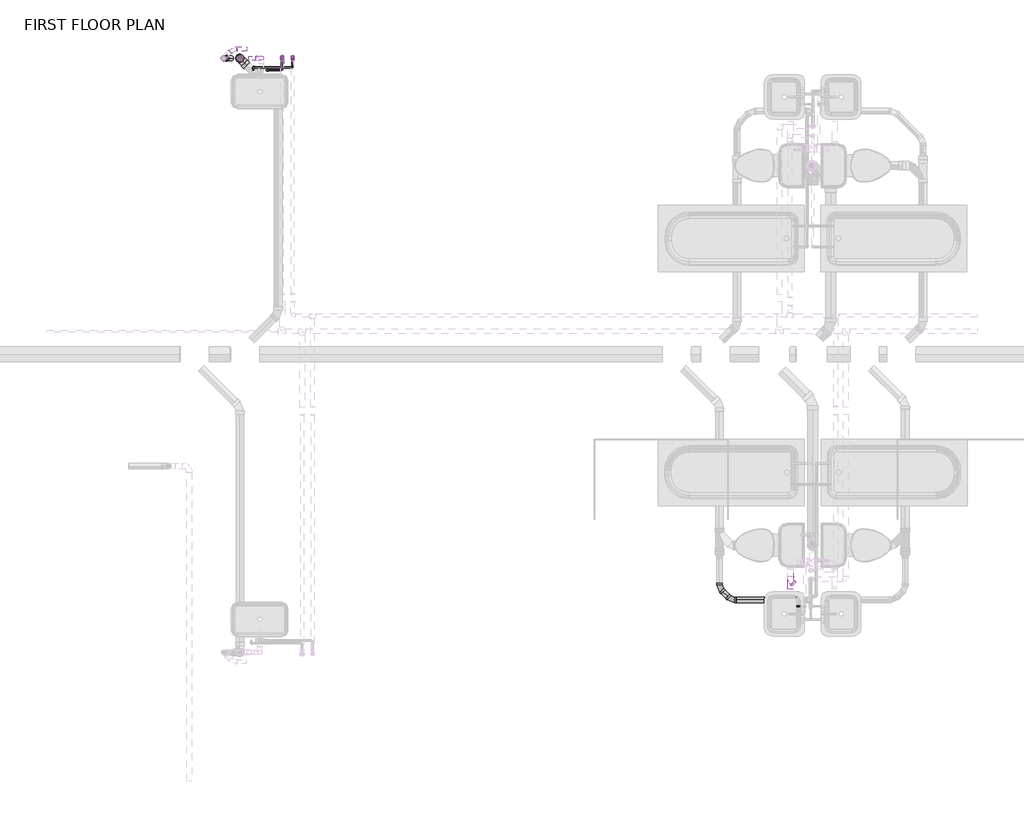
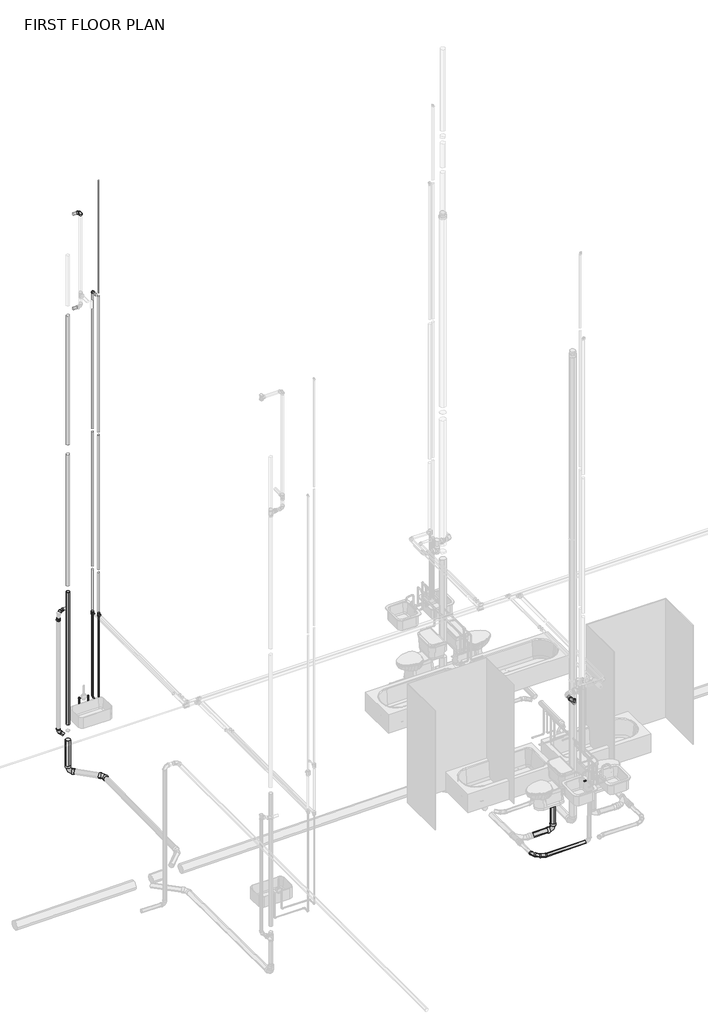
# One storey, part 4 of 29: 31 pipe segments, 26 pipe fittings.
"""IFC4 building model written with IfcOpenShell, lengths in millimetres."""

from ifc_helpers import new_model, si_unit, point, frame, frame_2d, origin, place, context, project, spatial, circle_curve, trimmed, segment, composite_curve, outline, extrude, transform, mapped, element, save
from components import bend_pvc_sch_40_dwv_standard_738aab8b, bend_pvc_sch_40_dwv_standard_9b1ab2e2, bend_pvc_sch_40_dwv_standard_e6a60135, bend_pvc_sch_40_dwv_standard_cc806abd, bend_pvc_sch_40_dwv_standard_9d8d5a04, bend_pvc_sch_40_dwv_standard_bec85717, bend_pvc_sch_40_dwv_standard_9832a8ad, bend_pvc_sch_40_dwv_standard_a6ae3568, bend_pvc_sch_40_dwv_standard_1fcfdb7d, pipe_elbow_copper_k_feaaf02c, pipe_elbow_copper_k_aad62f2d, pipe_elbow_copper_k_aee2f062, pipe_elbow_copper_k_4cfe590c, pipe_elbow_copper_k_69a8f9be, pipe_tee_copper_k_60c871d1, pipe_transition_copper_k_859ff352, pipe_transition_copper_k_3e141881, pipe_transition_copper_k_46d96269, pipe_transition_copper_k_a9268ca5, pipe_transition_copper_k_a0e390c6, reducer_pvc_sch_40_dwv_standard_230e9924

model = new_model("IFC4")

# Units and contexts
model_context = context("Model", 3, world=origin())
ifc_project = project(units=[si_unit("LENGTHUNIT", "METRE", prefix="MILLI")], contexts=[model_context])

# Site, building, storey
site = spatial("IfcSite", under=ifc_project)
building = spatial("IfcBuilding", under=site)
storey = spatial("IfcBuildingStorey", under=building, Name="FIRST FLOOR PLAN", Elevation=0.0)

# Pipe fittings
placement = place(None, origin())
bend_pvc_sch_40_dwv_standard_shape = bend_pvc_sch_40_dwv_standard_738aab8b(model_context)
element("IfcPipeFitting", 1, ObjectType="Bend - PVC - Sch 40 - DWV : Standard", at=placement, inside=storey, context=model_context, shape_type="MappedRepresentation", body=[
    mapped(bend_pvc_sch_40_dwv_standard_shape, transform((-4211.8802487, 8911.2513726, 10809.6112003), x_axis=(0.0, 0.0, 1.0), y_axis=(-0.9999889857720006, 0.004693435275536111, 0.0), z_axis=(-0.004693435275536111, -0.9999889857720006, 0.0))),
])
bend_pvc_sch_40_dwv_standard_2_shape = bend_pvc_sch_40_dwv_standard_9b1ab2e2(model_context)
element("IfcPipeFitting", 2, ObjectType="Bend - PVC - Sch 40 - DWV : Standard", at=placement, inside=storey, context=model_context, shape_type="MappedRepresentation", body=[
    mapped(bend_pvc_sch_40_dwv_standard_2_shape, transform((-4536.3609113, 9017.6936649, 2685.8310921), x_axis=(-0.9999457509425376, 0.0, 0.010416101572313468), y_axis=(4.542044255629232e-05, -0.9999904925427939, 0.004360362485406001), z_axis=(0.010416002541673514, 0.004360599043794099, 0.9999362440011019))),
])
bend_pvc_sch_40_dwv_standard_3_shape = bend_pvc_sch_40_dwv_standard_e6a60135(model_context)
element("IfcPipeFitting", 3, ObjectType="Bend - PVC - Sch 40 - DWV : Standard", at=placement, inside=storey, context=model_context, shape_type="MappedRepresentation", body=[
    mapped(bend_pvc_sch_40_dwv_standard_3_shape, transform((1731.7783832, 3317.5011917, -529.632564), x_axis=(0.0, -5.143823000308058e-07, -0.9999999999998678), y_axis=(-1.0, -5.358148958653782e-09, 0.0), z_axis=(-5.358148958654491e-09, 0.9999999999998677, -5.143823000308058e-07))),
])
bend_pvc_sch_40_dwv_standard_4_shape = bend_pvc_sch_40_dwv_standard_cc806abd(model_context)
element("IfcPipeFitting", 4, ObjectType="Bend - PVC - Sch 40 - DWV : Standard", at=placement, inside=storey, context=model_context, shape_type="MappedRepresentation", body=[
    mapped(bend_pvc_sch_40_dwv_standard_4_shape, transform((1184.5226668, 2692.6283846, -526.9518495), x_axis=(0.7070684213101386, -0.707068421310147, 0.01041610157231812), y_axis=(0.707068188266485, 0.7071320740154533, 0.004336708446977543), z_axis=(-0.010431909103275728, 0.004298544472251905, 0.99993634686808))),
])
bend_pvc_sch_40_dwv_standard_5_shape = bend_pvc_sch_40_dwv_standard_9d8d5a04(model_context)
element("IfcPipeFitting", 5, ObjectType="Bend - PVC - Sch 40 - DWV : Standard", at=placement, inside=storey, context=model_context, shape_type="MappedRepresentation", body=[
    mapped(bend_pvc_sch_40_dwv_standard_5_shape, transform((1048.8502354, 2828.300816, -528.9504932), x_axis=(0.0, -0.9999457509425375, 0.010416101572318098), y_axis=(0.9999906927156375, 4.493975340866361e-05, 0.004314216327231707), z_axis=(-0.004314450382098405, 0.010416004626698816, 0.9999364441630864))),
])
bend_pvc_sch_40_dwv_standard_6_shape = bend_pvc_sch_40_dwv_standard_bec85717(model_context)
element("IfcPipeFitting", 6, ObjectType="Bend - PVC - Sch 40 - DWV : Standard", at=placement, inside=storey, context=model_context, shape_type="MappedRepresentation", body=[
    mapped(bend_pvc_sch_40_dwv_standard_6_shape, transform((-4458.7136369, 8911.2236854, -567.4026344), x_axis=(0.0, 0.0, -1.0), y_axis=(0.7071180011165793, -0.707095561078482, 0.0), z_axis=(-0.707095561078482, -0.7071180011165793, 0.0))),
])
bend_pvc_sch_40_dwv_standard_7_shape = bend_pvc_sch_40_dwv_standard_9832a8ad(model_context)
element("IfcPipeFitting", 7, ObjectType="Bend - PVC - Sch 40 - DWV : Standard", at=placement, inside=storey, context=model_context, shape_type="MappedRepresentation", body=[
    mapped(bend_pvc_sch_40_dwv_standard_7_shape, transform((-4017.0165056, 8469.5510834, -570.9215311), x_axis=(0.0, 0.9999456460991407, 0.010426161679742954), y_axis=(-0.9999969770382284, 2.5636306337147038e-05, -0.0024587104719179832), z_axis=(-0.002458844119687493, -0.010426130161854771, 0.9999426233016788))),
])
bend_pvc_sch_40_dwv_standard_8_shape = bend_pvc_sch_40_dwv_standard_a6ae3568(model_context)
element("IfcPipeFitting", 8, ObjectType="Bend - PVC - Sch 40 - DWV : Standard", at=placement, inside=storey, context=model_context, shape_type="MappedRepresentation", body=[
    mapped(bend_pvc_sch_40_dwv_standard_8_shape, transform((-4642.7612611, 8912.119871, 306.196907), x_axis=(0.0, 0.0, -1.0), y_axis=(0.9999896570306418, -0.004548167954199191, 0.0), z_axis=(-0.004548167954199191, -0.9999896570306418, 0.0))),
])
bend_pvc_sch_40_dwv_standard_9_shape = bend_pvc_sch_40_dwv_standard_1fcfdb7d(model_context)
element("IfcPipeFitting", 9, ObjectType="Bend - PVC - Sch 40 - DWV : Standard", at=placement, inside=storey, context=model_context, shape_type="MappedRepresentation", body=[
    mapped(bend_pvc_sch_40_dwv_standard_9_shape, transform((1864.3084867, 2912.8506152, 2298.6947608), x_axis=(0.0, -0.9999999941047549, -0.00010858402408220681), y_axis=(0.999999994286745, -1.1607073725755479e-08, 0.00010689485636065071), z_axis=(-0.0001068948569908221, -0.00010858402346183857, 0.9999999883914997))),
])
pipe_elbow_copper_k_shape = pipe_elbow_copper_k_feaaf02c(model_context)
element("IfcPipeFitting", 10, ObjectType="Pipe Elbow : Copper- K", at=placement, inside=storey, context=model_context, shape_type="MappedRepresentation", body=[
    mapped(pipe_elbow_copper_k_shape, transform((-3851.0839703, 8927.8175381, 658.9178352), x_axis=(0.0, 1.0, 0.0), y_axis=(0.0, 0.0, 1.0), z_axis=(1.0, 0.0, 0.0))),
])
pipe_elbow_copper_k_2_shape = pipe_elbow_copper_k_aad62f2d(model_context)
element("IfcPipeFitting", 11, ObjectType="Pipe Elbow : Copper- K", at=placement, inside=storey, context=model_context, shape_type="MappedRepresentation", body=[
    mapped(pipe_elbow_copper_k_2_shape, transform((-3971.8165125, 8927.8175381, 770.7360969), x_axis=(0.0, 0.0, -1.0), y_axis=(0.0, -1.0, 0.0), z_axis=(-1.0, 0.0, 0.0))),
])
element("IfcPipeFitting", 12, ObjectType="Pipe Elbow : Copper- K", at=placement, inside=storey, context=model_context, shape_type="MappedRepresentation", body=[
    mapped(pipe_elbow_copper_k_2_shape, transform((-3971.8165125, 8774.1278432, 770.7360969), x_axis=(0.9999999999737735, 0.0, -7.242448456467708e-06), y_axis=(0.0, 1.0000000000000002, 0.0), z_axis=(7.242448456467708e-06, 0.0, 0.9999999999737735))),
])
element("IfcPipeFitting", 13, ObjectType="Pipe Elbow : Copper- K", at=placement, inside=storey, context=model_context, shape_type="MappedRepresentation", body=[
    mapped(pipe_elbow_copper_k_2_shape, transform((-3851.0839703, 8806.2157662, 658.9178352), x_axis=(1.0, 0.0, 0.0), y_axis=(0.0, 1.0, 0.0), z_axis=(0.0, 0.0, 1.0))),
])
pipe_elbow_copper_k_3_shape = pipe_elbow_copper_k_aee2f062(model_context)
element("IfcPipeFitting", 14, ObjectType="Pipe Elbow : Copper- K", at=placement, inside=storey, context=model_context, shape_type="MappedRepresentation", body=[
    mapped(pipe_elbow_copper_k_3_shape, transform((-3971.8165125, 8927.8175381, 9083.0784105), x_axis=(0.0, 1.0, 0.0), y_axis=(0.0, 0.0, -1.0), z_axis=(-1.0, 0.0, 0.0))),
])
pipe_elbow_copper_k_4_shape = pipe_elbow_copper_k_4cfe590c(model_context)
element("IfcPipeFitting", 15, ObjectType="Pipe Elbow : Copper- K", at=placement, inside=storey, context=model_context, shape_type="MappedRepresentation", body=[
    mapped(pipe_elbow_copper_k_4_shape, transform((-4147.1086623, 8774.1278432, 770.7373664), x_axis=(0.0, 0.0, -1.0), y_axis=(1.0, 0.0, 0.0), z_axis=(0.0, -1.0, 0.0))),
])
pipe_elbow_copper_k_5_shape = pipe_elbow_copper_k_69a8f9be(model_context)
element("IfcPipeFitting", 16, ObjectType="Pipe Elbow : Copper- K", at=placement, inside=storey, context=model_context, shape_type="MappedRepresentation", body=[
    mapped(pipe_elbow_copper_k_5_shape, transform((-4304.3608484, 8806.2157662, 658.9178352), x_axis=(-1.0, 0.0, 0.0), y_axis=(0.0, 0.0, -1.0), z_axis=(0.0, -1.0, 0.0))),
])
element("IfcPipeFitting", 17, ObjectType="Pipe Elbow : Copper- K", at=placement, inside=storey, context=model_context, shape_type="MappedRepresentation", body=[
    mapped(pipe_elbow_copper_k_5_shape, transform((-4304.3608484, 8806.2157662, 944.8601562), x_axis=(0.0, 0.0, 1.0), y_axis=(0.0, 1.0, 0.0), z_axis=(-1.0, 0.0, 0.0))),
])
pipe_tee_copper_k_shape = pipe_tee_copper_k_60c871d1(model_context)
element("IfcPipeFitting", 18, ObjectType="Pipe Tee : Copper- K", at=placement, inside=storey, context=model_context, shape_type="MappedRepresentation", body=[
    mapped(pipe_tee_copper_k_shape, transform((-3971.8165125, 8927.8175381, 2490.6882812), x_axis=(0.0, 0.0, -1.0), y_axis=(0.0, 1.0, 0.0), z_axis=(1.0, 0.0, 0.0))),
])
element("IfcPipeFitting", 19, ObjectType="Pipe Tee : Copper- K", at=placement, inside=storey, context=model_context, shape_type="MappedRepresentation", body=[
    mapped(pipe_tee_copper_k_shape, transform((-3851.0839703, 8927.8175381, 2413.0), x_axis=(0.0, 0.0, -1.0), y_axis=(0.0, 1.0, 0.0), z_axis=(1.0, 0.0, 0.0))),
])
pipe_transition_copper_k_shape = pipe_transition_copper_k_859ff352(model_context)
element("IfcPipeFitting", 20, ObjectType="Pipe Transition : Copper- K", at=placement, inside=storey, context=model_context, shape_type="MappedRepresentation", body=[
    mapped(pipe_transition_copper_k_shape, transform((-3971.8165125, 8927.8175381, 793.7548469), x_axis=(0.0, 0.0, -1.0), y_axis=(-1.0, 0.0, 0.0), z_axis=(0.0, 1.0, 0.0))),
])
pipe_transition_copper_k_2_shape = pipe_transition_copper_k_3e141881(model_context)
element("IfcPipeFitting", 21, ObjectType="Pipe Transition : Copper- K", at=placement, inside=storey, context=model_context, shape_type="MappedRepresentation", body=[
    mapped(pipe_transition_copper_k_2_shape, transform((-3971.8165125, 8894.4800381, 2490.6882812), x_axis=(0.0, -1.0, 0.0), y_axis=(1.0, 0.0, 0.0), z_axis=(0.0, 0.0, 1.0))),
])
element("IfcPipeFitting", 22, ObjectType="Pipe Transition : Copper- K", at=placement, inside=storey, context=model_context, shape_type="MappedRepresentation", body=[
    mapped(pipe_transition_copper_k_2_shape, transform((-3851.0839703, 8894.4800381, 2413.0), x_axis=(0.0, -1.0, 0.0), y_axis=(1.0, 0.0, 0.0), z_axis=(0.0, 0.0, 1.0))),
])
pipe_transition_copper_k_3_shape = pipe_transition_copper_k_46d96269(model_context)
element("IfcPipeFitting", 23, ObjectType="Pipe Transition : Copper- K", at=placement, inside=storey, context=model_context, shape_type="MappedRepresentation", body=[
    mapped(pipe_transition_copper_k_3_shape, transform((-3851.0839703, 8823.6782662, 658.9178352), x_axis=(0.0, 1.0, 0.0), y_axis=(-1.0, 0.0, 0.0), z_axis=(0.0, 0.0, 1.0))),
])
pipe_transition_copper_k_4_shape = pipe_transition_copper_k_a9268ca5(model_context)
element("IfcPipeFitting", 24, ObjectType="Pipe Transition : Copper- K", at=placement, inside=storey, context=model_context, shape_type="MappedRepresentation", body=[
    mapped(pipe_transition_copper_k_4_shape, transform((-3971.8165125, 8927.8175381, 2457.3507812), x_axis=(0.0, 0.0, -1.0), y_axis=(-1.0, 0.0, 0.0), z_axis=(0.0, 1.0, 0.0))),
])
pipe_transition_copper_k_5_shape = pipe_transition_copper_k_a0e390c6(model_context)
element("IfcPipeFitting", 25, ObjectType="Pipe Transition : Copper- K", at=placement, inside=storey, context=model_context, shape_type="MappedRepresentation", body=[
    mapped(pipe_transition_copper_k_5_shape, transform((-3851.0839703, 8927.8175381, 2375.296875), x_axis=(0.0, 0.0, 1.0), y_axis=(1.0, 0.0, 0.0), z_axis=(0.0, 1.0, 0.0))),
])
reducer_pvc_sch_40_dwv_standard_shape = reducer_pvc_sch_40_dwv_standard_230e9924(model_context)
element("IfcPipeFitting", 26, ObjectType="Reducer - PVC - Sch 40 - DWV : Standard", at=placement, inside=storey, context=model_context, shape_type="MappedRepresentation", body=[
    mapped(reducer_pvc_sch_40_dwv_standard_shape, transform((-4642.7612611, 8912.119871, 2625.5000234), x_axis=(0.0, 0.0, -1.0), y_axis=(-0.7098586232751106, -0.7043441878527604, 0.0), z_axis=(-0.7043441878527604, 0.7098586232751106, 0.0))),
])

# Pipe segments
element("IfcPipeSegment", 27, ObjectType="Copper", at=placement, inside=storey, context=model_context, shape_type="SweptSolid", body=[
    extrude(outline(composite_curve([segment(trimmed(circle_curve(frame_2d((-3851.0839703, 8927.8175381)), 11.1125), [point((-3862.1964703, 8927.8175381))], [point((-3851.0839703, 8938.9300381))], False, "CARTESIAN"), True, "CONTINUOUS"), segment(trimmed(circle_curve(frame_2d((-3851.0839703, 8927.8175381)), 11.1125), [point((-3851.0839703, 8938.9300381))], [point((-3839.9714703, 8927.8175381))], False, "CARTESIAN"), True, "CONTINUOUS"), segment(trimmed(circle_curve(frame_2d((-3851.0839703, 8927.8175381)), 11.1125), [point((-3839.9714703, 8927.8175381))], [point((-3851.0839703, 8916.7050381))], False, "CARTESIAN"), True, "CONTINUOUS"), segment(trimmed(circle_curve(frame_2d((-3851.0839703, 8927.8175381)), 11.1125), [point((-3851.0839703, 8916.7050381))], [point((-3862.1964703, 8927.8175381))], False, "CARTESIAN"), True, "CONTINUOUS")], self_intersect=False)), frame((0.0, 0.0, 9013.3289063), z_axis=(0.0, 0.0, 1.0), x_axis=(1.0, 0.0, 0.0)), (0.0, 0.0, 1.0), 2294.8304687),
])
element("IfcPipeSegment", 28, ObjectType="Copper", at=placement, inside=storey, context=model_context, shape_type="SweptSolid", body=[
    extrude(outline(composite_curve([segment(trimmed(circle_curve(frame_2d((-3971.8165125, 8927.8175381)), 17.4625), [point((-3954.3540125, 8927.8175381))], [point((-3971.8165125, 8910.3550381))], False, "CARTESIAN"), True, "CONTINUOUS"), segment(trimmed(circle_curve(frame_2d((-3971.8165125, 8927.8175381)), 17.4625), [point((-3971.8165125, 8910.3550381))], [point((-3989.2790125, 8927.8175381))], False, "CARTESIAN"), True, "CONTINUOUS"), segment(trimmed(circle_curve(frame_2d((-3971.8165125, 8927.8175381)), 17.4625), [point((-3989.2790125, 8927.8175381))], [point((-3971.8165125, 8945.2800381))], False, "CARTESIAN"), True, "CONTINUOUS"), segment(trimmed(circle_curve(frame_2d((-3971.8165125, 8927.8175381)), 17.4625), [point((-3971.8165125, 8945.2800381))], [point((-3954.3540125, 8927.8175381))], False, "CARTESIAN"), True, "CONTINUOUS")], self_intersect=False)), frame((0.0, 0.0, 6271.6171883), z_axis=(0.0, 0.0, 1.0), x_axis=(1.0, 0.0, 0.0)), (0.0, 0.0, 1.0), 2784.4737222),
])
element("IfcPipeSegment", 29, ObjectType="Copper", at=placement, inside=storey, context=model_context, shape_type="SweptSolid", body=[
    extrude(outline(composite_curve([segment(trimmed(circle_curve(frame_2d((2620.8535326, 792.4601562)), 7.9375), [point((2628.7910326, 792.4601562))], [point((2620.8535326, 784.5226562))], False, "CARTESIAN"), True, "CONTINUOUS"), segment(trimmed(circle_curve(frame_2d((2620.8535326, 792.4601562)), 7.9375), [point((2620.8535326, 784.5226562))], [point((2612.9160326, 792.4601562))], False, "CARTESIAN"), True, "CONTINUOUS"), segment(trimmed(circle_curve(frame_2d((2620.8535326, 792.4601562)), 7.9375), [point((2612.9160326, 792.4601562))], [point((2620.8535326, 800.3976562))], False, "CARTESIAN"), True, "CONTINUOUS"), segment(trimmed(circle_curve(frame_2d((2620.8535326, 792.4601562)), 7.9375), [point((2620.8535326, 800.3976562))], [point((2628.7910326, 792.4601562))], False, "CARTESIAN"), True, "CONTINUOUS")], self_intersect=False)), frame((1934.1584875, 0.0, 0.0), z_axis=(1.0, 0.0, 0.0), x_axis=(0.0, 1.0, 0.0)), (0.0, 0.0, 1.0), 76.2),
])
element("IfcPipeSegment", 30, ObjectType="Copper", at=placement, inside=storey, context=model_context, shape_type="SweptSolid", body=[
    extrude(outline(composite_curve([segment(trimmed(circle_curve(frame_2d((944.8601563, -4304.3608484)), 7.9375), [point((944.8601563, -4312.2983484))], [point((936.9226563, -4304.3608484))], False, "CARTESIAN"), True, "CONTINUOUS"), segment(trimmed(circle_curve(frame_2d((944.8601563, -4304.3608484)), 7.9375), [point((936.9226563, -4304.3608484))], [point((944.8601563, -4296.4233484))], False, "CARTESIAN"), True, "CONTINUOUS"), segment(trimmed(circle_curve(frame_2d((944.8601563, -4304.3608484)), 7.9375), [point((944.8601563, -4296.4233484))], [point((952.7976563, -4304.3608484))], False, "CARTESIAN"), True, "CONTINUOUS"), segment(trimmed(circle_curve(frame_2d((944.8601563, -4304.3608484)), 7.9375), [point((952.7976563, -4304.3608484))], [point((944.8601563, -4312.2983484))], False, "CARTESIAN"), True, "CONTINUOUS")], self_intersect=False)), frame((0.0, 8771.4354504, 0.0), z_axis=(0.0, 1.0, 0.0), x_axis=(0.0, 0.0, 1.0)), (0.0, 0.0, 1.0), 17.3178158),
])
element("IfcPipeSegment", 31, ObjectType="Copper", at=placement, inside=storey, context=model_context, shape_type="SweptSolid", body=[
    extrude(outline(composite_curve([segment(trimmed(circle_curve(frame_2d((8774.1278432, 770.7362234)), 7.9375), [point((8782.0653432, 770.7362234))], [point((8774.1278432, 762.7987234))], False, "CARTESIAN"), True, "CONTINUOUS"), segment(trimmed(circle_curve(frame_2d((8774.1278432, 770.7362234)), 7.9375), [point((8774.1278432, 762.7987234))], [point((8766.1903432, 770.7362234))], False, "CARTESIAN"), True, "CONTINUOUS"), segment(trimmed(circle_curve(frame_2d((8774.1278432, 770.7362234)), 7.9375), [point((8766.1903432, 770.7362234))], [point((8774.1278432, 778.6737234))], False, "CARTESIAN"), True, "CONTINUOUS"), segment(trimmed(circle_curve(frame_2d((8774.1278432, 770.7362234)), 7.9375), [point((8774.1278432, 778.6737234))], [point((8782.0653432, 770.7362234))], False, "CARTESIAN"), True, "CONTINUOUS")], self_intersect=False)), frame((-4129.6462887, 0.0, 0.0), z_axis=(1.0, 0.0, 0.0), x_axis=(0.0, 1.0, 0.0)), (0.0, 0.0, 1.0), 140.3672762),
])
element("IfcPipeSegment", 32, ObjectType="Copper", at=placement, inside=storey, context=model_context, shape_type="SweptSolid", body=[
    extrude(outline(composite_curve([segment(trimmed(circle_curve(frame_2d((-4147.1086623, 8774.1278432)), 7.9375), [point((-4155.0461623, 8774.1278432))], [point((-4147.1086623, 8782.0653432))], False, "CARTESIAN"), True, "CONTINUOUS"), segment(trimmed(circle_curve(frame_2d((-4147.1086623, 8774.1278432)), 7.9375), [point((-4147.1086623, 8782.0653432))], [point((-4139.1711623, 8774.1278432))], False, "CARTESIAN"), True, "CONTINUOUS"), segment(trimmed(circle_curve(frame_2d((-4147.1086623, 8774.1278432)), 7.9375), [point((-4139.1711623, 8774.1278432))], [point((-4147.1086623, 8766.1903432))], False, "CARTESIAN"), True, "CONTINUOUS"), segment(trimmed(circle_curve(frame_2d((-4147.1086623, 8774.1278432)), 7.9375), [point((-4147.1086623, 8766.1903432))], [point((-4155.0461623, 8774.1278432))], False, "CARTESIAN"), True, "CONTINUOUS")], self_intersect=False)), frame((0.0, 0.0, 788.19974), z_axis=(0.0, 0.0, 1.0), x_axis=(1.0, 0.0, 0.0)), (0.0, 0.0, 1.0), 156.6604163),
])
element("IfcPipeSegment", 33, ObjectType="Copper", at=placement, inside=storey, context=model_context, shape_type="SweptSolid", body=[
    extrude(outline(composite_curve([segment(trimmed(circle_curve(frame_2d((8806.2157662, 658.9178352)), 7.9375), [point((8814.1532662, 658.9178352))], [point((8806.2157662, 650.9803352))], False, "CARTESIAN"), True, "CONTINUOUS"), segment(trimmed(circle_curve(frame_2d((8806.2157662, 658.9178352)), 7.9375), [point((8806.2157662, 650.9803352))], [point((8798.2782662, 658.9178352))], False, "CARTESIAN"), True, "CONTINUOUS"), segment(trimmed(circle_curve(frame_2d((8806.2157662, 658.9178352)), 7.9375), [point((8798.2782662, 658.9178352))], [point((8806.2157662, 666.8553352))], False, "CARTESIAN"), True, "CONTINUOUS"), segment(trimmed(circle_curve(frame_2d((8806.2157662, 658.9178352)), 7.9375), [point((8806.2157662, 666.8553352))], [point((8814.1532662, 658.9178352))], False, "CARTESIAN"), True, "CONTINUOUS")], self_intersect=False)), frame((-4286.8983484, 0.0, 0.0), z_axis=(1.0, 0.0, 0.0), x_axis=(0.0, 1.0, 0.0)), (0.0, 0.0, 1.0), 418.351878),
])
element("IfcPipeSegment", 34, ObjectType="Copper", at=placement, inside=storey, context=model_context, shape_type="SweptSolid", body=[
    extrude(outline(composite_curve([segment(trimmed(circle_curve(frame_2d((-4304.3608484, 8806.2157662)), 7.9375), [point((-4312.2983484, 8806.2157662))], [point((-4304.3608484, 8814.1532662))], False, "CARTESIAN"), True, "CONTINUOUS"), segment(trimmed(circle_curve(frame_2d((-4304.3608484, 8806.2157662)), 7.9375), [point((-4304.3608484, 8814.1532662))], [point((-4296.4233484, 8806.2157662))], False, "CARTESIAN"), True, "CONTINUOUS"), segment(trimmed(circle_curve(frame_2d((-4304.3608484, 8806.2157662)), 7.9375), [point((-4296.4233484, 8806.2157662))], [point((-4304.3608484, 8798.2782662))], False, "CARTESIAN"), True, "CONTINUOUS"), segment(trimmed(circle_curve(frame_2d((-4304.3608484, 8806.2157662)), 7.9375), [point((-4304.3608484, 8798.2782662))], [point((-4312.2983484, 8806.2157662))], False, "CARTESIAN"), True, "CONTINUOUS")], self_intersect=False)), frame((0.0, 0.0, 676.3803352), z_axis=(0.0, 0.0, 1.0), x_axis=(1.0, 0.0, 0.0)), (0.0, 0.0, 1.0), 251.0173211),
])
element("IfcPipeSegment", 35, ObjectType="Copper", at=placement, inside=storey, context=model_context, shape_type="SweptSolid", body=[
    extrude(outline(composite_curve([segment(trimmed(circle_curve(frame_2d((-3851.0839703, 8927.8175381)), 11.1125), [point((-3862.1964703, 8927.8175381))], [point((-3851.0839703, 8938.9300381))], False, "CARTESIAN"), True, "CONTINUOUS"), segment(trimmed(circle_curve(frame_2d((-3851.0839703, 8927.8175381)), 11.1125), [point((-3851.0839703, 8938.9300381))], [point((-3839.9714703, 8927.8175381))], False, "CARTESIAN"), True, "CONTINUOUS"), segment(trimmed(circle_curve(frame_2d((-3851.0839703, 8927.8175381)), 11.1125), [point((-3839.9714703, 8927.8175381))], [point((-3851.0839703, 8916.7050381))], False, "CARTESIAN"), True, "CONTINUOUS"), segment(trimmed(circle_curve(frame_2d((-3851.0839703, 8927.8175381)), 11.1125), [point((-3851.0839703, 8916.7050381))], [point((-3862.1964703, 8927.8175381))], False, "CARTESIAN"), True, "CONTINUOUS")], self_intersect=False)), frame((0.0, 0.0, 679.5553352), z_axis=(0.0, 0.0, 1.0), x_axis=(1.0, 0.0, 0.0)), (0.0, 0.0, 1.0), 1695.7415398),
])
element("IfcPipeSegment", 36, ObjectType="Copper", at=placement, inside=storey, context=model_context, shape_type="SweptSolid", body=[
    extrude(outline(composite_curve([segment(trimmed(circle_curve(frame_2d((-3971.8165125, 8927.8175381)), 11.1125), [point((-3960.7040125, 8927.8175381))], [point((-3971.8165125, 8916.7050381))], False, "CARTESIAN"), True, "CONTINUOUS"), segment(trimmed(circle_curve(frame_2d((-3971.8165125, 8927.8175381)), 11.1125), [point((-3971.8165125, 8916.7050381))], [point((-3982.9290125, 8927.8175381))], False, "CARTESIAN"), True, "CONTINUOUS"), segment(trimmed(circle_curve(frame_2d((-3971.8165125, 8927.8175381)), 11.1125), [point((-3982.9290125, 8927.8175381))], [point((-3971.8165125, 8938.9300381))], False, "CARTESIAN"), True, "CONTINUOUS"), segment(trimmed(circle_curve(frame_2d((-3971.8165125, 8927.8175381)), 11.1125), [point((-3971.8165125, 8938.9300381))], [point((-3960.7040125, 8927.8175381))], False, "CARTESIAN"), True, "CONTINUOUS")], self_intersect=False)), frame((0.0, 0.0, 793.7548469), z_axis=(0.0, 0.0, 1.0), x_axis=(1.0, 0.0, 0.0)), (0.0, 0.0, 1.0), 1654.8646844),
])
element("IfcPipeSegment", 37, ObjectType="Copper", at=placement, inside=storey, context=model_context, shape_type="SweptSolid", body=[
    extrude(outline(composite_curve([segment(trimmed(circle_curve(frame_2d((770.7360969, -3971.8165125)), 7.9375), [point((770.7360969, -3979.7540125))], [point((762.7985969, -3971.8165125))], False, "CARTESIAN"), True, "CONTINUOUS"), segment(trimmed(circle_curve(frame_2d((770.7360969, -3971.8165125)), 7.9375), [point((762.7985969, -3971.8165125))], [point((770.7360969, -3963.8790125))], False, "CARTESIAN"), True, "CONTINUOUS"), segment(trimmed(circle_curve(frame_2d((770.7360969, -3971.8165125)), 7.9375), [point((770.7360969, -3963.8790125))], [point((778.6735969, -3971.8165125))], False, "CARTESIAN"), True, "CONTINUOUS"), segment(trimmed(circle_curve(frame_2d((770.7360969, -3971.8165125)), 7.9375), [point((778.6735969, -3971.8165125))], [point((770.7360969, -3979.7540125))], False, "CARTESIAN"), True, "CONTINUOUS")], self_intersect=False)), frame((0.0, 8791.5903432, 0.0), z_axis=(0.0, 1.0, 0.0), x_axis=(0.0, 0.0, 1.0)), (0.0, 0.0, 1.0), 118.7646948),
])
element("IfcPipeSegment", 38, ObjectType="Copper", at=placement, inside=storey, context=model_context, shape_type="SweptSolid", body=[
    extrude(outline(composite_curve([segment(trimmed(circle_curve(frame_2d((658.9178352, -3851.0839703)), 11.1125), [point((658.9178352, -3839.9714703))], [point((670.0303352, -3851.0839703))], False, "CARTESIAN"), True, "CONTINUOUS"), segment(trimmed(circle_curve(frame_2d((658.9178352, -3851.0839703)), 11.1125), [point((670.0303352, -3851.0839703))], [point((658.9178352, -3862.1964703))], False, "CARTESIAN"), True, "CONTINUOUS"), segment(trimmed(circle_curve(frame_2d((658.9178352, -3851.0839703)), 11.1125), [point((658.9178352, -3862.1964703))], [point((647.8053352, -3851.0839703))], False, "CARTESIAN"), True, "CONTINUOUS"), segment(trimmed(circle_curve(frame_2d((658.9178352, -3851.0839703)), 11.1125), [point((647.8053352, -3851.0839703))], [point((658.9178352, -3839.9714703))], False, "CARTESIAN"), True, "CONTINUOUS")], self_intersect=False)), frame((0.0, 8826.4563912, 0.0), z_axis=(0.0, 1.0, 0.0), x_axis=(0.0, 0.0, 1.0)), (0.0, 0.0, 1.0), 80.7236468),
])
element("IfcPipeSegment", 39, ObjectType="Copper", at=placement, inside=storey, context=model_context, shape_type="SweptSolid", body=[
    extrude(outline(composite_curve([segment(trimmed(circle_curve(frame_2d((-3971.8165125, 8927.8175381)), 17.4625), [point((-3989.2790125, 8927.8175381))], [point((-3971.8165125, 8945.2800381))], False, "CARTESIAN"), True, "CONTINUOUS"), segment(trimmed(circle_curve(frame_2d((-3971.8165125, 8927.8175381)), 17.4625), [point((-3971.8165125, 8945.2800381))], [point((-3954.3540125, 8927.8175381))], False, "CARTESIAN"), True, "CONTINUOUS"), segment(trimmed(circle_curve(frame_2d((-3971.8165125, 8927.8175381)), 17.4625), [point((-3954.3540125, 8927.8175381))], [point((-3971.8165125, 8910.3550381))], False, "CARTESIAN"), True, "CONTINUOUS"), segment(trimmed(circle_curve(frame_2d((-3971.8165125, 8927.8175381)), 17.4625), [point((-3971.8165125, 8910.3550381))], [point((-3989.2790125, 8927.8175381))], False, "CARTESIAN"), True, "CONTINUOUS")], self_intersect=False)), frame((0.0, 0.0, 2524.0257812), z_axis=(0.0, 0.0, 1.0), x_axis=(1.0, 0.0, 0.0)), (0.0, 0.0, 1.0), 861.5164071),
])
element("IfcPipeSegment", 40, ObjectType="Copper", at=placement, inside=storey, context=model_context, shape_type="SweptSolid", body=[
    extrude(outline(composite_curve([segment(trimmed(circle_curve(frame_2d((-3851.0839703, 8927.8175381)), 17.4625), [point((-3868.5464703, 8927.8175381))], [point((-3851.0839703, 8945.2800381))], False, "CARTESIAN"), True, "CONTINUOUS"), segment(trimmed(circle_curve(frame_2d((-3851.0839703, 8927.8175381)), 17.4625), [point((-3851.0839703, 8945.2800381))], [point((-3833.6214703, 8927.8175381))], False, "CARTESIAN"), True, "CONTINUOUS"), segment(trimmed(circle_curve(frame_2d((-3851.0839703, 8927.8175381)), 17.4625), [point((-3833.6214703, 8927.8175381))], [point((-3851.0839703, 8910.3550381))], False, "CARTESIAN"), True, "CONTINUOUS"), segment(trimmed(circle_curve(frame_2d((-3851.0839703, 8927.8175381)), 17.4625), [point((-3851.0839703, 8910.3550381))], [point((-3868.5464703, 8927.8175381))], False, "CARTESIAN"), True, "CONTINUOUS")], self_intersect=False)), frame((0.0, 0.0, 2446.3375), z_axis=(0.0, 0.0, 1.0), x_axis=(1.0, 0.0, 0.0)), (0.0, 0.0, 1.0), 827.3851563),
])
element("IfcPipeSegment", 41, ObjectType="Copper", at=placement, inside=storey, context=model_context, shape_type="SweptSolid", body=[
    extrude(outline(composite_curve([segment(trimmed(circle_curve(frame_2d((-3971.8165125, 8927.8175381)), 17.4625), [point((-3989.2790125, 8927.8175381))], [point((-3971.8165125, 8945.2800381))], False, "CARTESIAN"), True, "CONTINUOUS"), segment(trimmed(circle_curve(frame_2d((-3971.8165125, 8927.8175381)), 17.4625), [point((-3971.8165125, 8945.2800381))], [point((-3954.3540125, 8927.8175381))], False, "CARTESIAN"), True, "CONTINUOUS"), segment(trimmed(circle_curve(frame_2d((-3971.8165125, 8927.8175381)), 17.4625), [point((-3954.3540125, 8927.8175381))], [point((-3971.8165125, 8910.3550381))], False, "CARTESIAN"), True, "CONTINUOUS"), segment(trimmed(circle_curve(frame_2d((-3971.8165125, 8927.8175381)), 17.4625), [point((-3971.8165125, 8910.3550381))], [point((-3989.2790125, 8927.8175381))], False, "CARTESIAN"), True, "CONTINUOUS")], self_intersect=False)), frame((0.0, 0.0, 3452.2171883), z_axis=(0.0, 0.0, 1.0), x_axis=(1.0, 0.0, 0.0)), (0.0, 0.0, 1.0), 2752.725),
])
element("IfcPipeSegment", 42, ObjectType="Copper", at=placement, inside=storey, context=model_context, shape_type="SweptSolid", body=[
    extrude(outline(composite_curve([segment(trimmed(circle_curve(frame_2d((-3851.0839703, 8927.8175381)), 17.4625), [point((-3868.5464703, 8927.8175381))], [point((-3851.0839703, 8945.2800381))], False, "CARTESIAN"), True, "CONTINUOUS"), segment(trimmed(circle_curve(frame_2d((-3851.0839703, 8927.8175381)), 17.4625), [point((-3851.0839703, 8945.2800381))], [point((-3833.6214703, 8927.8175381))], False, "CARTESIAN"), True, "CONTINUOUS"), segment(trimmed(circle_curve(frame_2d((-3851.0839703, 8927.8175381)), 17.4625), [point((-3833.6214703, 8927.8175381))], [point((-3851.0839703, 8910.3550381))], False, "CARTESIAN"), True, "CONTINUOUS"), segment(trimmed(circle_curve(frame_2d((-3851.0839703, 8927.8175381)), 17.4625), [point((-3851.0839703, 8910.3550381))], [point((-3868.5464703, 8927.8175381))], False, "CARTESIAN"), True, "CONTINUOUS")], self_intersect=False)), frame((0.0, 0.0, 3340.3976562), z_axis=(0.0, 0.0, 1.0), x_axis=(1.0, 0.0, 0.0)), (0.0, 0.0, 1.0), 2752.725),
])
element("IfcPipeSegment", 43, ObjectType="Copper", at=placement, inside=storey, context=model_context, shape_type="SweptSolid", body=[
    extrude(outline(composite_curve([segment(trimmed(circle_curve(frame_2d((9083.0784105, -3971.8165125)), 17.4625), [point((9083.0784105, -3954.3540125))], [point((9100.5409105, -3971.8165125))], False, "CARTESIAN"), True, "CONTINUOUS"), segment(trimmed(circle_curve(frame_2d((9083.0784105, -3971.8165125)), 17.4625), [point((9100.5409105, -3971.8165125))], [point((9083.0784105, -3989.2790125))], False, "CARTESIAN"), True, "CONTINUOUS"), segment(trimmed(circle_curve(frame_2d((9083.0784105, -3971.8165125)), 17.4625), [point((9083.0784105, -3989.2790125))], [point((9065.6159105, -3971.8165125))], False, "CARTESIAN"), True, "CONTINUOUS"), segment(trimmed(circle_curve(frame_2d((9083.0784105, -3971.8165125)), 17.4625), [point((9065.6159105, -3971.8165125))], [point((9083.0784105, -3954.3540125))], False, "CARTESIAN"), True, "CONTINUOUS")], self_intersect=False)), frame((0.0, 8795.9559682, 0.0), z_axis=(0.0, 1.0, 0.0), x_axis=(0.0, 0.0, 1.0)), (0.0, 0.0, 1.0), 104.8740698),
])
element("IfcPipeSegment", 44, ObjectType="Copper", at=placement, inside=storey, context=model_context, shape_type="SweptSolid", body=[
    extrude(outline(composite_curve([segment(trimmed(circle_curve(frame_2d((-3851.0839703, 8927.8175381)), 17.4625), [point((-3868.5464703, 8927.8175381))], [point((-3851.0839703, 8945.2800381))], False, "CARTESIAN"), True, "CONTINUOUS"), segment(trimmed(circle_curve(frame_2d((-3851.0839703, 8927.8175381)), 17.4625), [point((-3851.0839703, 8945.2800381))], [point((-3833.6214703, 8927.8175381))], False, "CARTESIAN"), True, "CONTINUOUS"), segment(trimmed(circle_curve(frame_2d((-3851.0839703, 8927.8175381)), 17.4625), [point((-3833.6214703, 8927.8175381))], [point((-3851.0839703, 8910.3550381))], False, "CARTESIAN"), True, "CONTINUOUS"), segment(trimmed(circle_curve(frame_2d((-3851.0839703, 8927.8175381)), 17.4625), [point((-3851.0839703, 8910.3550381))], [point((-3868.5464703, 8927.8175381))], False, "CARTESIAN"), True, "CONTINUOUS")], self_intersect=False)), frame((0.0, 0.0, 6159.7976562), z_axis=(0.0, 0.0, 1.0), x_axis=(1.0, 0.0, 0.0)), (0.0, 0.0, 1.0), 2778.125),
])
element("IfcPipeSegment", 45, ObjectType="PVC - SAN/STORM", at=placement, inside=storey, context=model_context, shape_type="SweptSolid", body=[
    extrude(outline(composite_curve([segment(trimmed(circle_curve(frame_2d((1e-07, 24.13)), 24.13), [point((0.0005486, 48.26))], [point((24.13, 24.1294515))], False, "CARTESIAN"), True, "CONTINUOUS"), segment(trimmed(circle_curve(frame_2d((1e-07, 24.13)), 24.13), [point((24.13, 24.1294515))], [point((-0.0005484, 0.0))], False, "CARTESIAN"), True, "CONTINUOUS"), segment(trimmed(circle_curve(frame_2d((1e-07, 24.13)), 24.13), [point((-0.0005484, 0.0))], [point((-24.13, 24.1305484))], False, "CARTESIAN"), True, "CONTINUOUS"), segment(trimmed(circle_curve(frame_2d((1e-07, 24.13)), 24.13), [point((-24.13, 24.1305484))], [point((0.0005486, 48.26))], False, "CARTESIAN"), True, "CONTINUOUS")], self_intersect=False)), frame((-4381.4866216, 8993.563639, 2684.2124251), z_axis=(-0.9999451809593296, 2.37996654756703e-07, 0.010470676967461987), x_axis=(0.0104706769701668, 2.272857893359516e-05, 0.9999451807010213)), (0.0, 0.0, 1.0), 108.857954),
])
element("IfcPipeSegment", 46, ObjectType="PVC - SAN/STORM", at=placement, inside=storey, context=model_context, shape_type="SweptSolid", body=[
    extrude(outline(composite_curve([segment(trimmed(circle_curve(frame_2d((0.0, -30.1625)), 30.1625), [point((-0.1940084, -60.3243761))], [point((-30.1618761, -29.9684917))], False, "CARTESIAN"), True, "CONTINUOUS"), segment(trimmed(circle_curve(frame_2d((0.0, -30.1625)), 30.1625), [point((-30.1618761, -29.9684917))], [point((0.1940083, -0.000624))], False, "CARTESIAN"), True, "CONTINUOUS"), segment(trimmed(circle_curve(frame_2d((0.0, -30.1625)), 30.1625), [point((0.1940083, -0.000624))], [point((30.161876, -30.3565083))], False, "CARTESIAN"), True, "CONTINUOUS"), segment(trimmed(circle_curve(frame_2d((0.0, -30.1625)), 30.1625), [point((30.161876, -30.3565083))], [point((-0.1940084, -60.3243761))], False, "CARTESIAN"), True, "CONTINUOUS")], self_intersect=False)), frame((-4552.9669487, 8941.8423048, 216.2731216), z_axis=(-0.7071093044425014, 0.003216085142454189, 0.7070969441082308), x_axis=(0.7071042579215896, 0.003216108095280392, 0.7071019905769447)), (0.0, 0.0, 1.0), 74.5834377),
])
element("IfcPipeSegment", 47, ObjectType="PVC - SAN/STORM", at=placement, inside=storey, context=model_context, shape_type="SweptSolid", body=[
    extrude(outline(composite_curve([segment(trimmed(circle_curve(frame_2d((0.0, 44.45)), 44.45), [point((-44.45, 44.4499999))], [point((0.0, 88.9))], False, "CARTESIAN"), True, "CONTINUOUS"), segment(trimmed(circle_curve(frame_2d((0.0, 44.45)), 44.45), [point((0.0, 88.9))], [point((44.45, 44.45))], False, "CARTESIAN"), True, "CONTINUOUS"), segment(trimmed(circle_curve(frame_2d((0.0, 44.45)), 44.45), [point((44.45, 44.45))], [point((1e-07, 0.0))], False, "CARTESIAN"), True, "CONTINUOUS"), segment(trimmed(circle_curve(frame_2d((0.0, 44.45)), 44.45), [point((1e-07, 0.0))], [point((-44.45, 44.4499999))], False, "CARTESIAN"), True, "CONTINUOUS")], self_intersect=False)), frame((-4458.7136369, 8866.7736855, -451.5000576), z_axis=(2.538742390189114e-05, 5.347159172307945e-05, 0.9999999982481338), x_axis=(0.9999999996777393, -1.3575061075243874e-09, -2.538742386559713e-05)), (0.0, 0.0, 1.0), 517.7930924),
])
element("IfcPipeSegment", 48, ObjectType="PVC - SAN/STORM", at=placement, inside=storey, context=model_context, shape_type="SweptSolid", body=[
    extrude(outline(composite_curve([segment(trimmed(circle_curve(frame_2d((-4458.7004914, 8911.2513726)), 30.1625), [point((-4488.8629914, 8911.2513726))], [point((-4458.7004914, 8941.4138726))], False, "CARTESIAN"), True, "CONTINUOUS"), segment(trimmed(circle_curve(frame_2d((-4458.7004914, 8911.2513726)), 30.1625), [point((-4458.7004914, 8941.4138726))], [point((-4428.5379914, 8911.2513726))], False, "CARTESIAN"), True, "CONTINUOUS"), segment(trimmed(circle_curve(frame_2d((-4458.7004914, 8911.2513726)), 30.1625), [point((-4428.5379914, 8911.2513726))], [point((-4458.7004914, 8881.0888726))], False, "CARTESIAN"), True, "CONTINUOUS"), segment(trimmed(circle_curve(frame_2d((-4458.7004914, 8911.2513726)), 30.1625), [point((-4458.7004914, 8881.0888726))], [point((-4488.8629914, 8911.2513726))], False, "CARTESIAN"), True, "CONTINUOUS")], self_intersect=False)), frame((0.0, 0.0, 391.3367935), z_axis=(0.0, 0.0, 1.0), x_axis=(1.0, 0.0, 0.0)), (0.0, 0.0, 1.0), 2713.0248),
])
element("IfcPipeSegment", 49, ObjectType="PVC - SAN/STORM", at=placement, inside=storey, context=model_context, shape_type="SweptSolid", body=[
    extrude(outline(composite_curve([segment(trimmed(circle_curve(frame_2d((0.0, -30.1625)), 30.1625), [point((0.0, 0.0))], [point((30.1625, -30.1625))], False, "CARTESIAN"), True, "CONTINUOUS"), segment(trimmed(circle_curve(frame_2d((0.0, -30.1625)), 30.1625), [point((30.1625, -30.1625))], [point((0.0, -60.325))], False, "CARTESIAN"), True, "CONTINUOUS"), segment(trimmed(circle_curve(frame_2d((0.0, -30.1625)), 30.1625), [point((0.0, -60.325))], [point((-30.1625, -30.1625))], False, "CARTESIAN"), True, "CONTINUOUS"), segment(trimmed(circle_curve(frame_2d((0.0, -30.1625)), 30.1625), [point((-30.1625, -30.1625))], [point((0.0, 0.0))], False, "CARTESIAN"), True, "CONTINUOUS")], self_intersect=False)), frame((1241.669557, 2722.7908846, -526.3556604), z_axis=(0.9999455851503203, 0.0, 0.010432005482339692), x_axis=(0.010432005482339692, 0.0, -0.9999455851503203)), (0.0, 0.0, 1.0), 755.5492301),
])
element("IfcPipeSegment", 50, ObjectType="PVC - SAN/STORM", at=placement, inside=storey, context=model_context, shape_type="SweptSolid", body=[
    extrude(outline(composite_curve([segment(trimmed(circle_curve(frame_2d((0.0, -30.1625)), 30.1625), [point((30.1608639, -29.8483414))], [point((0.3141585, -60.3233639))], False, "CARTESIAN"), True, "CONTINUOUS"), segment(trimmed(circle_curve(frame_2d((0.0, -30.1625)), 30.1625), [point((0.3141585, -60.3233639))], [point((-30.1608639, -30.4766586))], False, "CARTESIAN"), True, "CONTINUOUS"), segment(trimmed(circle_curve(frame_2d((0.0, -30.1625)), 30.1625), [point((-30.1608639, -30.4766586))], [point((-0.3141587, -0.0016361))], False, "CARTESIAN"), True, "CONTINUOUS"), segment(trimmed(circle_curve(frame_2d((0.0, -30.1625)), 30.1625), [point((-0.3141587, -0.0016361))], [point((30.1608639, -29.8483414))], False, "CARTESIAN"), True, "CONTINUOUS")], self_intersect=False)), frame((1089.2591957, 2788.3361432, -498.1959853), z_axis=(0.7070684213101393, -0.7070684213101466, 0.010416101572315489), x_axis=(0.7071451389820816, 0.7069917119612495, -0.010414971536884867)), (0.0, 0.0, 1.0), 77.5802019),
])
element("IfcPipeSegment", 51, ObjectType="PVC - SAN/STORM", at=placement, inside=storey, context=model_context, shape_type="SweptSolid", body=[
    extrude(outline(composite_curve([segment(trimmed(circle_curve(frame_2d((0.0, -44.4499999)), 44.45), [point((-44.4499999, -44.4499897))], [point((1.03e-05, 0.0))], False, "CARTESIAN"), True, "CONTINUOUS"), segment(trimmed(circle_curve(frame_2d((0.0, -44.4499999)), 44.45), [point((1.03e-05, 0.0))], [point((44.45, -44.4500102))], False, "CARTESIAN"), True, "CONTINUOUS"), segment(trimmed(circle_curve(frame_2d((0.0, -44.4499999)), 44.45), [point((44.45, -44.4500102))], [point((-1.02e-05, -88.9))], False, "CARTESIAN"), True, "CONTINUOUS"), segment(trimmed(circle_curve(frame_2d((0.0, -44.4499999)), 44.45), [point((-1.02e-05, -88.9))], [point((-44.4499999, -44.4499897))], False, "CARTESIAN"), True, "CONTINUOUS")], self_intersect=False)), frame((1731.7783832, 3273.0512565, -413.7537534), z_axis=(0.00048044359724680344, -0.00048120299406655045, 0.9999997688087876), x_axis=(-0.9999998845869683, -2.3119092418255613e-07, 0.0004804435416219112)), (0.0, 0.0, 1.0), 466.5265044),
])
element("IfcPipeSegment", 52, ObjectType="PVC - SAN/STORM", at=placement, inside=storey, context=model_context, shape_type="SweptSolid", body=[
    extrude(outline(composite_curve([segment(trimmed(circle_curve(frame_2d((0.0, -44.45)), 44.45), [point((-4.57e-05, 0.0))], [point((44.45, -44.4499543))], False, "CARTESIAN"), True, "CONTINUOUS"), segment(trimmed(circle_curve(frame_2d((0.0, -44.45)), 44.45), [point((44.45, -44.4499543))], [point((4.58e-05, -88.9))], False, "CARTESIAN"), True, "CONTINUOUS"), segment(trimmed(circle_curve(frame_2d((0.0, -44.45)), 44.45), [point((4.58e-05, -88.9))], [point((-44.4499999, -44.4500457))], False, "CARTESIAN"), True, "CONTINUOUS"), segment(trimmed(circle_curve(frame_2d((0.0, -44.45)), 44.45), [point((-44.4499999, -44.4500457))], [point((-4.57e-05, 0.0))], False, "CARTESIAN"), True, "CONTINUOUS")], self_intersect=False)), frame((1329.2926397, 3361.9511874, -533.8251695), z_axis=(0.9999457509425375, 1.0715716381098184e-08, 0.010416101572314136), x_axis=(0.010416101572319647, -1.0287087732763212e-06, -0.9999457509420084)), (0.0, 0.0, 1.0), 286.6073791),
])
element("IfcPipeSegment", 53, ObjectType="PVC - SAN/STORM", at=placement, inside=storey, context=model_context, shape_type="SweptSolid", body=[
    extrude(outline(composite_curve([segment(trimmed(circle_curve(frame_2d((-4458.7004914, 8911.2513726)), 30.1625), [point((-4488.8629914, 8911.2513726))], [point((-4458.7004914, 8941.4138726))], False, "CARTESIAN"), True, "CONTINUOUS"), segment(trimmed(circle_curve(frame_2d((-4458.7004914, 8911.2513726)), 30.1625), [point((-4458.7004914, 8941.4138726))], [point((-4428.5379914, 8911.2513726))], False, "CARTESIAN"), True, "CONTINUOUS"), segment(trimmed(circle_curve(frame_2d((-4458.7004914, 8911.2513726)), 30.1625), [point((-4428.5379914, 8911.2513726))], [point((-4458.7004914, 8881.0888726))], False, "CARTESIAN"), True, "CONTINUOUS"), segment(trimmed(circle_curve(frame_2d((-4458.7004914, 8911.2513726)), 30.1625), [point((-4458.7004914, 8881.0888726))], [point((-4488.8629914, 8911.2513726))], False, "CARTESIAN"), True, "CONTINUOUS")], self_intersect=False)), frame((0.0, 0.0, 3236.1367935), z_axis=(0.0, 0.0, 1.0), x_axis=(1.0, 0.0, 0.0)), (0.0, 0.0, 1.0), 2687.6502),
])
element("IfcPipeSegment", 54, ObjectType="PVC - SAN/STORM", at=placement, inside=storey, context=model_context, shape_type="SweptSolid", body=[
    extrude(outline(composite_curve([segment(trimmed(circle_curve(frame_2d((0.0, -24.13)), 24.13), [point((0.0, 0.0))], [point((24.1299999, -24.13))], False, "CARTESIAN"), True, "CONTINUOUS"), segment(trimmed(circle_curve(frame_2d((0.0, -24.13)), 24.13), [point((24.1299999, -24.13))], [point((0.0, -48.26))], False, "CARTESIAN"), True, "CONTINUOUS"), segment(trimmed(circle_curve(frame_2d((0.0, -24.13)), 24.13), [point((0.0, -48.26))], [point((-24.13, -24.13))], False, "CARTESIAN"), True, "CONTINUOUS"), segment(trimmed(circle_curve(frame_2d((0.0, -24.13)), 24.13), [point((-24.13, -24.13))], [point((0.0, 0.0))], False, "CARTESIAN"), True, "CONTINUOUS")], self_intersect=False)), frame((-4353.9254914, 8935.3813726, 8870.855157), z_axis=(0.9999457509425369, 0.0, 0.010416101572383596), x_axis=(0.010416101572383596, 0.0, -0.9999457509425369)), (0.0, 0.0, 1.0), 80.153149),
])
element("IfcPipeSegment", 55, ObjectType="PVC - SAN/STORM", at=placement, inside=storey, context=model_context, shape_type="SweptSolid", body=[
    extrude(outline(composite_curve([segment(trimmed(circle_curve(frame_2d((-4458.7004914, 8911.2513726)), 30.1625), [point((-4488.8629914, 8911.2513726))], [point((-4458.7004914, 8941.4138726))], False, "CARTESIAN"), True, "CONTINUOUS"), segment(trimmed(circle_curve(frame_2d((-4458.7004914, 8911.2513726)), 30.1625), [point((-4458.7004914, 8941.4138726))], [point((-4428.5379914, 8911.2513726))], False, "CARTESIAN"), True, "CONTINUOUS"), segment(trimmed(circle_curve(frame_2d((-4458.7004914, 8911.2513726)), 30.1625), [point((-4428.5379914, 8911.2513726))], [point((-4458.7004914, 8881.0888726))], False, "CARTESIAN"), True, "CONTINUOUS"), segment(trimmed(circle_curve(frame_2d((-4458.7004914, 8911.2513726)), 30.1625), [point((-4458.7004914, 8881.0888726))], [point((-4488.8629914, 8911.2513726))], False, "CARTESIAN"), True, "CONTINUOUS")], self_intersect=False)), frame((0.0, 0.0, 6130.1365935), z_axis=(0.0, 0.0, 1.0), x_axis=(1.0, 0.0, 0.0)), (0.0, 0.0, 1.0), 2637.5437635),
])
element("IfcPipeSegment", 56, ObjectType="PVC - SAN/STORM", at=placement, inside=storey, context=model_context, shape_type="SweptSolid", body=[
    extrude(outline(composite_curve([segment(trimmed(circle_curve(frame_2d((0.0, -24.13)), 24.13), [point((-24.13, -24.13))], [point((0.0, 0.0))], False, "CARTESIAN"), True, "CONTINUOUS"), segment(trimmed(circle_curve(frame_2d((0.0, -24.13)), 24.13), [point((0.0, 0.0))], [point((24.1300001, -24.13))], False, "CARTESIAN"), True, "CONTINUOUS"), segment(trimmed(circle_curve(frame_2d((0.0, -24.13)), 24.13), [point((24.1300001, -24.13))], [point((0.0, -48.26))], False, "CARTESIAN"), True, "CONTINUOUS"), segment(trimmed(circle_curve(frame_2d((0.0, -24.13)), 24.13), [point((0.0, -48.26))], [point((-24.13, -24.13))], False, "CARTESIAN"), True, "CONTINUOUS")], self_intersect=False)), frame((-4273.7793669, 8911.5418953, 10785.4812003), z_axis=(-0.999999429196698, 0.001068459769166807, 0.0), x_axis=(0.001068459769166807, 0.999999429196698, 0.0)), (0.0, 0.0, 1.0), 80.144535),
])
element("IfcPipeSegment", 57, ObjectType="PVC - SAN/STORM", at=placement, inside=storey, context=model_context, shape_type="SweptSolid", body=[
    extrude(outline(composite_curve([segment(trimmed(circle_curve(frame_2d((2298.6963824, 1864.3084875)), 30.1625), [point((2298.6963824, 1894.4709875))], [point((2328.8588824, 1864.3084875))], False, "CARTESIAN"), True, "CONTINUOUS"), segment(trimmed(circle_curve(frame_2d((2298.6963824, 1864.3084875)), 30.1625), [point((2328.8588824, 1864.3084875))], [point((2298.6963824, 1834.1459875))], False, "CARTESIAN"), True, "CONTINUOUS"), segment(trimmed(circle_curve(frame_2d((2298.6963824, 1864.3084875)), 30.1625), [point((2298.6963824, 1834.1459875))], [point((2268.5338824, 1864.3084875))], False, "CARTESIAN"), True, "CONTINUOUS"), segment(trimmed(circle_curve(frame_2d((2298.6963824, 1864.3084875)), 30.1625), [point((2268.5338824, 1864.3084875))], [point((2298.6963824, 1894.4709875))], False, "CARTESIAN"), True, "CONTINUOUS")], self_intersect=False)), frame((0.0, 2813.9845074, 0.0), z_axis=(0.0, 1.0, 0.0), x_axis=(0.0, 0.0, 1.0)), (0.0, 0.0, 1.0), 232.419253),
])

save(model, "model.ifc")
